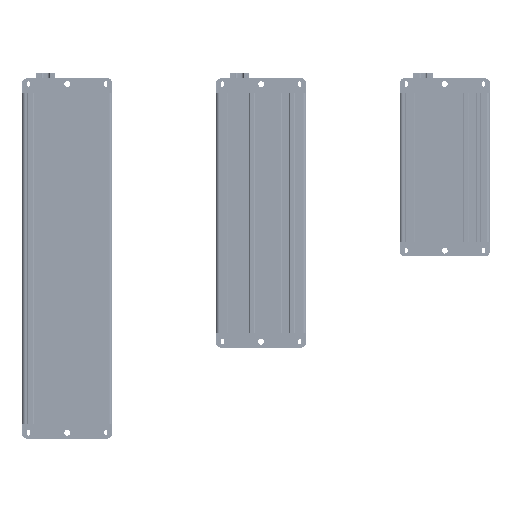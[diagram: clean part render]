
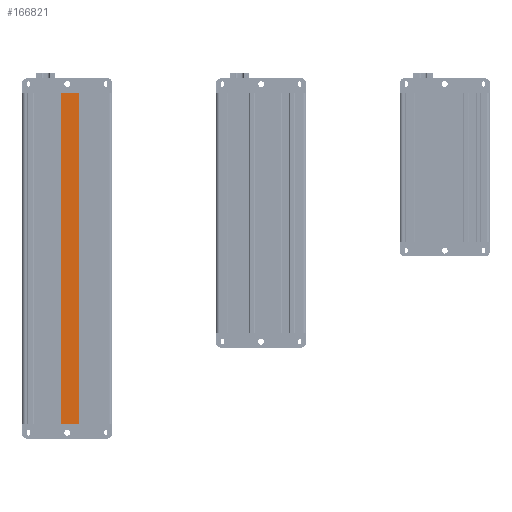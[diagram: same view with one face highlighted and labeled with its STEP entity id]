
A CAD part, left-side view. The second image highlights one B-rep face of the part: STEP entity #166821.
In plain terms, the highlighted planar face has unit normal (-1, 0, 0).
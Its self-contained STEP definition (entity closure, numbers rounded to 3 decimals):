
#18682=FACE_OUTER_BOUND('',#26924,.T.);
#26924=EDGE_LOOP('',(#118236,#118237,#118238,#118239));
#34051=LINE('',#234854,#47334);
#37227=LINE('',#258516,#50510);
#37361=LINE('',#258802,#50644);
#37362=LINE('',#258804,#50645);
#47334=VECTOR('',#187139,0.394);
#50510=VECTOR('',#196095,0.394);
#50644=VECTOR('',#196485,0.394);
#50645=VECTOR('',#196488,0.394);
#60922=VERTEX_POINT('',#234851);
#60923=VERTEX_POINT('',#234853);
#65571=VERTEX_POINT('',#258513);
#65572=VERTEX_POINT('',#258515);
#79450=EDGE_CURVE('',#60922,#60923,#34051,.T.);
#85510=EDGE_CURVE('',#65571,#65572,#37227,.T.);
#85653=EDGE_CURVE('',#65571,#60923,#37361,.T.);
#85654=EDGE_CURVE('',#65572,#60922,#37362,.T.);
#118236=ORIENTED_EDGE('',*,*,#85510,.F.);
#118237=ORIENTED_EDGE('',*,*,#85653,.T.);
#118238=ORIENTED_EDGE('',*,*,#79450,.F.);
#118239=ORIENTED_EDGE('',*,*,#85654,.F.);
#153588=PLANE('',#176119);
#166821=ADVANCED_FACE('',(#18682),#153588,.T.);
#176119=AXIS2_PLACEMENT_3D('',#258803,#196486,#196487);
#187139=DIRECTION('',(0.,-1.,0.));
#196095=DIRECTION('',(0.,1.,0.));
#196485=DIRECTION('',(0.,0.,1.));
#196486=DIRECTION('center_axis',(-1.,0.,
0.));
#196487=DIRECTION('ref_axis',(0.,-1.,0.));
#196488=DIRECTION('',(0.,0.,1.));
#234851=CARTESIAN_POINT('',(0.138,9.505,45.474));
#234853=CARTESIAN_POINT('',(0.138,8.383,45.474));
#234854=CARTESIAN_POINT('',(0.138,8.383,45.474));
#258513=CARTESIAN_POINT('',(0.138,8.383,25.395));
#258515=CARTESIAN_POINT('',(0.138,9.505,25.395));
#258516=CARTESIAN_POINT('',(0.138,8.383,25.395));
#258802=CARTESIAN_POINT('',(0.138,8.383,25.395));
#258803=CARTESIAN_POINT('Origin',(0.138,9.505,25.395));
#258804=CARTESIAN_POINT('',(0.138,9.505,25.395));
